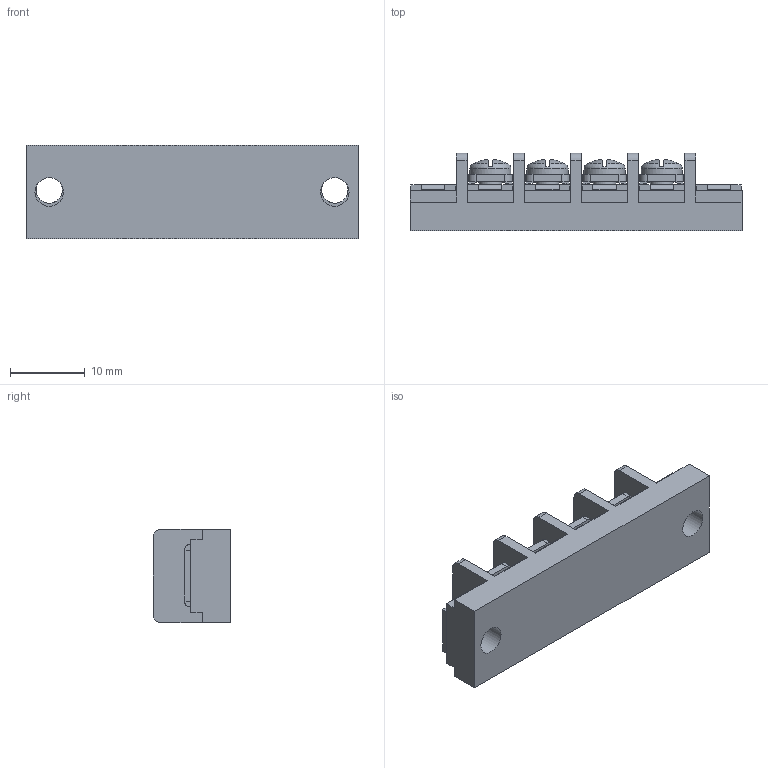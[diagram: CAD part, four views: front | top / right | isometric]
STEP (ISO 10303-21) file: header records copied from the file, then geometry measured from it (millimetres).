
FILE_DESCRIPTION(/* description */ ('Alibre Inc.'),/* implementation_level */ '2;1');
FILE_NAME(/* name */ 'export0',/* time_stamp */ '2015-10-26T18:10:01+09:00',/* author */ (''),/* organization */ (''),/* preprocessor_version */ 'ST-DEVELOPER v14',/* originating_system */ 'Alibre',/* authorisation */ '');
FILE_SCHEMA (('CONFIG_CONTROL_DESIGN'));
Length unit declared in the file: centimetre
Products named in the file (1): ID_1
Bounding box: 44.3 x 10.3 x 12.5 mm (x, y, z)
Volume: 3620.1 mm3; surface area: 3297.9 mm2
Topology: 1 solids, 17 shells, 808 faces, 2180 edges, 1440 vertices
Faces by surface type: plane 618, bspline 104, cylinder 54, cone 16, torus 8, sphere 8
Full cylindrical faces by diameter (mm): 3 x4, 3.5 x2, 3.8 x2, 5.5 x4
Entity records: 24149 total; most frequent: CARTESIAN_POINT 5577, ORIENTED_EDGE 4280, DIRECTION 2782, EDGE_CURVE 2140, VECTOR 1576, LINE 1576, VERTEX_POINT 1420, AXIS2_PLACEMENT_3D 885
